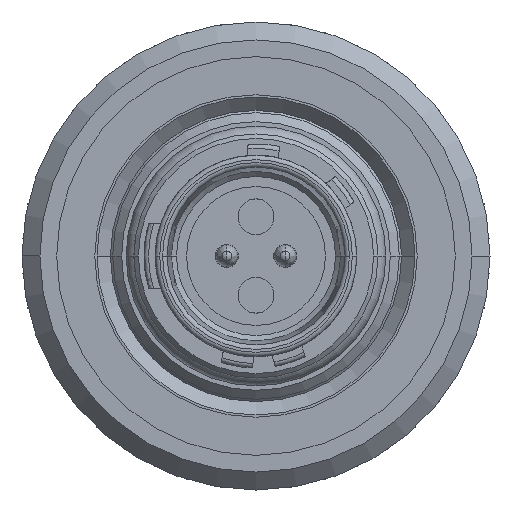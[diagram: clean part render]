
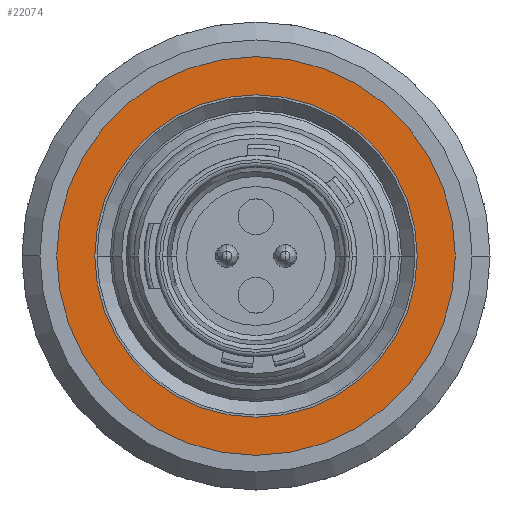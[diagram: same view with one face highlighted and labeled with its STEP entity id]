
A CAD part, left-side view. The second image highlights one B-rep face of the part: STEP entity #22074.
In plain terms, the highlighted planar face has unit normal (-1, 0, 0).
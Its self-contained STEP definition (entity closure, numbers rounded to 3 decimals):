
#1090=CARTESIAN_POINT('',(-4.89,0.,0.));
#1091=DIRECTION('',(1.,0.,0.));
#1092=DIRECTION('',(0.,-1.,0.));
#1093=AXIS2_PLACEMENT_3D('',#1090,#1091,#1092);
#1095=CARTESIAN_POINT('',(-4.89,0.,0.));
#1096=DIRECTION('',(1.,0.,0.));
#1097=DIRECTION('',(0.,1.,0.));
#1098=AXIS2_PLACEMENT_3D('',#1095,#1096,#1097);
#1100=CARTESIAN_POINT('',(-4.89,0.,0.));
#1101=DIRECTION('',(-1.,0.,0.));
#1102=DIRECTION('',(0.,-1.,0.));
#1103=AXIS2_PLACEMENT_3D('',#1100,#1101,#1102);
#1105=CARTESIAN_POINT('',(-4.89,0.,0.));
#1106=DIRECTION('',(-1.,0.,0.));
#1107=DIRECTION('',(0.,1.,0.));
#1108=AXIS2_PLACEMENT_3D('',#1105,#1106,#1107);
#17711=CARTESIAN_POINT('',(-4.89,4.45,0.));
#17712=VERTEX_POINT('',#17711);
#17713=CARTESIAN_POINT('',(-4.89,-4.45,0.));
#17714=VERTEX_POINT('',#17713);
#17715=CARTESIAN_POINT('',(-4.89,-3.6,0.));
#17716=CARTESIAN_POINT('',(-4.89,3.6,0.));
#17717=VERTEX_POINT('',#17715);
#17718=VERTEX_POINT('',#17716);
#22059=CARTESIAN_POINT('',(-4.89,0.,0.));
#22060=DIRECTION('',(-1.,0.,0.));
#22061=DIRECTION('',(0.,1.,0.));
#22062=AXIS2_PLACEMENT_3D('',#22059,#22060,#22061);
#22063=PLANE('',#22062);
#22064=ORIENTED_EDGE('',*,*,#22025,.T.);
#22065=ORIENTED_EDGE('',*,*,#22046,.T.);
#22066=EDGE_LOOP('',(#22064,#22065));
#22067=FACE_OUTER_BOUND('',#22066,.F.);
#22069=ORIENTED_EDGE('',*,*,#22068,.T.);
#22071=ORIENTED_EDGE('',*,*,#22070,.T.);
#22072=EDGE_LOOP('',(#22069,#22071));
#22073=FACE_BOUND('',#22072,.F.);
#1094=CIRCLE('',#1093,4.45);
#1099=CIRCLE('',#1098,4.45);
#1104=CIRCLE('',#1103,3.6);
#1109=CIRCLE('',#1108,3.6);
#22025=EDGE_CURVE('',#17714,#17712,#1094,.T.);
#22046=EDGE_CURVE('',#17712,#17714,#1099,.T.);
#22068=EDGE_CURVE('',#17717,#17718,#1104,.T.);
#22070=EDGE_CURVE('',#17718,#17717,#1109,.T.);
#22074=ADVANCED_FACE('',(#22067,#22073),#22063,.T.);
